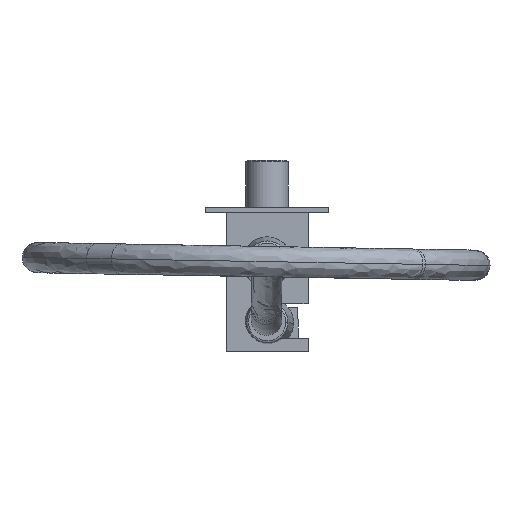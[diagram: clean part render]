
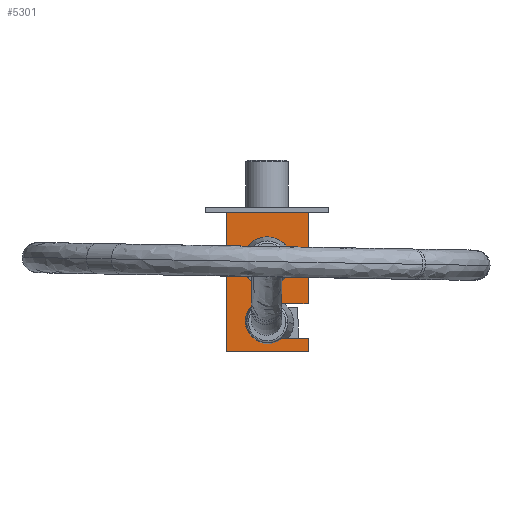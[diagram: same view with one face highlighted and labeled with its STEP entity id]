
A CAD part, left-side view. The second image highlights one B-rep face of the part: STEP entity #5301.
In plain terms, the highlighted planar face has unit normal (-1, 0, 0) as drawn and (0, -1, 0) by its records, which use the part's own axes.
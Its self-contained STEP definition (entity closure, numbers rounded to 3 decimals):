
#118 = ORIENTED_EDGE ( 'NONE', *, *, #5469, .T. ) ;
#145 = CIRCLE ( 'NONE', #2167, 10.614 ) ;
#307 = CARTESIAN_POINT ( 'NONE',  ( -6.356, -7.5, 70. ) ) ;
#429 = EDGE_CURVE ( 'NONE', #4303, #3162, #145, .T. ) ;
#496 = LINE ( 'NONE', #9323, #4637 ) ;
#497 = DIRECTION ( 'NONE',  ( 0., 1., 0. ) ) ;
#527 = EDGE_CURVE ( 'NONE', #3459, #1869, #5670, .T. ) ;
#550 = ORIENTED_EDGE ( 'NONE', *, *, #3804, .F. ) ;
#571 = CARTESIAN_POINT ( 'NONE',  ( 20., -7.5, 87. ) ) ;
#613 = EDGE_LOOP ( 'NONE', ( #1327, #3741 ) ) ;
#774 = VERTEX_POINT ( 'NONE', #1647 ) ;
#803 = VECTOR ( 'NONE', #4407, 1000. ) ;
#964 = ORIENTED_EDGE ( 'NONE', *, *, #5343, .F. ) ;
#1182 = DIRECTION ( 'NONE',  ( 0., 0., -1. ) ) ;
#1185 = DIRECTION ( 'NONE',  ( 0., 0., -1. ) ) ;
#1327 = ORIENTED_EDGE ( 'NONE', *, *, #8830, .F. ) ;
#1563 = CARTESIAN_POINT ( 'NONE',  ( 20., -7.5, 70. ) ) ;
#1647 = CARTESIAN_POINT ( 'NONE',  ( -20., -7.5, 70. ) ) ;
#1715 = CARTESIAN_POINT ( 'NONE',  ( -20., -7.5, 25.5 ) ) ;
#1869 = VERTEX_POINT ( 'NONE', #4878 ) ;
#1909 = EDGE_CURVE ( 'NONE', #6671, #8637, #4010, .T. ) ;
#1977 = VERTEX_POINT ( 'NONE', #8829 ) ;
#1999 = DIRECTION ( 'NONE',  ( -1., 0., 0. ) ) ;
#2011 = ORIENTED_EDGE ( 'NONE', *, *, #2705, .T. ) ;
#2052 = VECTOR ( 'NONE', #1182, 1000. ) ;
#2065 = CARTESIAN_POINT ( 'NONE',  ( 20., -7.5, 93.5 ) ) ;
#2167 = AXIS2_PLACEMENT_3D ( 'NONE', #3544, #7140, #8658 ) ;
#2253 = DIRECTION ( 'NONE',  ( 0., -1., 0. ) ) ;
#2281 = EDGE_CURVE ( 'NONE', #1869, #4303, #7248, .T. ) ;
#2320 = ORIENTED_EDGE ( 'NONE', *, *, #7676, .T. ) ;
#2677 = ORIENTED_EDGE ( 'NONE', *, *, #2281, .T. ) ;
#2705 = EDGE_CURVE ( 'NONE', #774, #4497, #496, .T. ) ;
#2722 = CARTESIAN_POINT ( 'NONE',  ( 0., -7.5, 49.5 ) ) ;
#2885 = LINE ( 'NONE', #1563, #803 ) ;
#3032 = ORIENTED_EDGE ( 'NONE', *, *, #429, .T. ) ;
#3034 = CARTESIAN_POINT ( 'NONE',  ( 0., -7.5, 49.5 ) ) ;
#3162 = VERTEX_POINT ( 'NONE', #307 ) ;
#3253 = VECTOR ( 'NONE', #1185, 1000. ) ;
#3459 = VERTEX_POINT ( 'NONE', #9454 ) ;
#3472 = CARTESIAN_POINT ( 'NONE',  ( 20., -7.5, 93.5 ) ) ;
#3544 = CARTESIAN_POINT ( 'NONE',  ( 0., -7.5, 78.5 ) ) ;
#3741 = ORIENTED_EDGE ( 'NONE', *, *, #1909, .F. ) ;
#3804 = EDGE_CURVE ( 'NONE', #3459, #1977, #3899, .T. ) ;
#3862 = ORIENTED_EDGE ( 'NONE', *, *, #527, .T. ) ;
#3899 = LINE ( 'NONE', #7737, #7773 ) ;
#3924 = AXIS2_PLACEMENT_3D ( 'NONE', #3034, #2253, #6004 ) ;
#4010 = CIRCLE ( 'NONE', #6486, 11.75 ) ;
#4231 = CIRCLE ( 'NONE', #3924, 11.75 ) ;
#4303 = VERTEX_POINT ( 'NONE', #8802 ) ;
#4407 = DIRECTION ( 'NONE',  ( -1., 0., 0. ) ) ;
#4497 = VERTEX_POINT ( 'NONE', #1715 ) ;
#4528 = CARTESIAN_POINT ( 'NONE',  ( 20., -7.5, 25.5 ) ) ;
#4637 = VECTOR ( 'NONE', #4938, 1000. ) ;
#4878 = CARTESIAN_POINT ( 'NONE',  ( -20., -7.5, 87. ) ) ;
#4938 = DIRECTION ( 'NONE',  ( 0., 0., -1. ) ) ;
#4939 = DIRECTION ( 'NONE',  ( -1., 0., 0. ) ) ;
#5068 = DIRECTION ( 'NONE',  ( 1., 0., 0. ) ) ;
#5301 = ADVANCED_FACE ( 'NONE', ( #6252, #9232 ), #7176, .F. ) ;
#5343 = EDGE_CURVE ( 'NONE', #1977, #6458, #7906, .T. ) ;
#5469 = EDGE_CURVE ( 'NONE', #3162, #774, #2885, .T. ) ;
#5519 = LINE ( 'NONE', #8492, #7164 ) ;
#5670 = LINE ( 'NONE', #8638, #3253 ) ;
#5706 = DIRECTION ( 'NONE',  ( 0., -1., 0. ) ) ;
#6004 = DIRECTION ( 'NONE',  ( -1., 0., 0. ) ) ;
#6252 = FACE_OUTER_BOUND ( 'NONE', #8794, .T. ) ;
#6256 = CARTESIAN_POINT ( 'NONE',  ( 11.75, -7.5, 49.5 ) ) ;
#6276 = DIRECTION ( 'NONE',  ( 1., 0., 0. ) ) ;
#6458 = VERTEX_POINT ( 'NONE', #4528 ) ;
#6486 = AXIS2_PLACEMENT_3D ( 'NONE', #2722, #5706, #1999 ) ;
#6671 = VERTEX_POINT ( 'NONE', #6256 ) ;
#7140 = DIRECTION ( 'NONE',  ( 0., 1., 0. ) ) ;
#7164 = VECTOR ( 'NONE', #7415, 1000. ) ;
#7176 = PLANE ( 'NONE',  #9041 ) ;
#7248 = LINE ( 'NONE', #571, #9632 ) ;
#7415 = DIRECTION ( 'NONE',  ( 1., 0., 0. ) ) ;
#7676 = EDGE_CURVE ( 'NONE', #4497, #6458, #5519, .T. ) ;
#7737 = CARTESIAN_POINT ( 'NONE',  ( 20., -7.5, 93.5 ) ) ;
#7773 = VECTOR ( 'NONE', #6276, 1000. ) ;
#7906 = LINE ( 'NONE', #3472, #2052 ) ;
#8492 = CARTESIAN_POINT ( 'NONE',  ( 20., -7.5, 25.5 ) ) ;
#8561 = CARTESIAN_POINT ( 'NONE',  ( -11.75, -7.5, 49.5 ) ) ;
#8637 = VERTEX_POINT ( 'NONE', #8561 ) ;
#8638 = CARTESIAN_POINT ( 'NONE',  ( -20., -7.5, 93.5 ) ) ;
#8658 = DIRECTION ( 'NONE',  ( -1., 0., 0. ) ) ;
#8794 = EDGE_LOOP ( 'NONE', ( #3032, #118, #2011, #2320, #964, #550, #3862, #2677 ) ) ;
#8802 = CARTESIAN_POINT ( 'NONE',  ( -6.356, -7.5, 87. ) ) ;
#8829 = CARTESIAN_POINT ( 'NONE',  ( 20., -7.5, 93.5 ) ) ;
#8830 = EDGE_CURVE ( 'NONE', #8637, #6671, #4231, .T. ) ;
#9041 = AXIS2_PLACEMENT_3D ( 'NONE', #2065, #497, #4939 ) ;
#9232 = FACE_BOUND ( 'NONE', #613, .T. ) ;
#9323 = CARTESIAN_POINT ( 'NONE',  ( -20., -7.5, 93.5 ) ) ;
#9454 = CARTESIAN_POINT ( 'NONE',  ( -20., -7.5, 93.5 ) ) ;
#9632 = VECTOR ( 'NONE', #5068, 1000. ) ;
